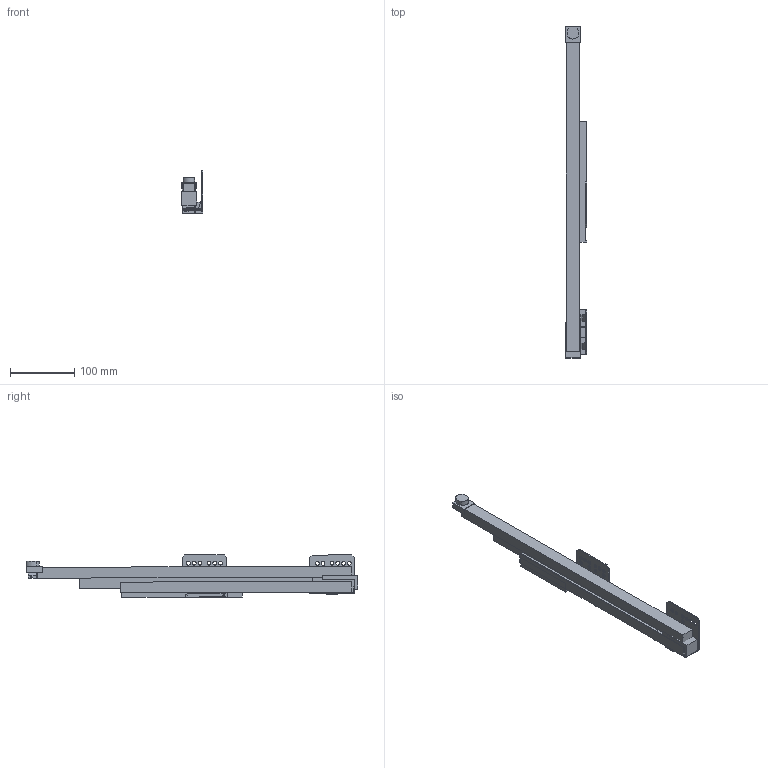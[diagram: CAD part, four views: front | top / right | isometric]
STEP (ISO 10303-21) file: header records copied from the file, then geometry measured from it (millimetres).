
FILE_DESCRIPTION (( 'STEP AP214' ), '1' );
FILE_NAME ('_IMOS Dynamic-XP VA 40kg NL500 RE Tipmatic.step', '2010-07-08T13:26:40', ( 'grass' ), ( '' ), 'SwSTEP 2.0', 'SolidWorks 2010', '' );
FILE_SCHEMA (( 'AUTOMOTIVE_DESIGN' ));
Length unit declared in the file: millimetre
Products named in the file (1): _IMOS Dynamic-XP VA 40kg NL500 RE Tipmatic
Bounding box: 33.14 x 518.02 x 66.67 mm (x, y, z)
Volume: 421580.4 mm3; surface area: 151529.8 mm2
Topology: 8 solids, 8 shells, 184 faces, 496 edges, 330 vertices
Faces by surface type: plane 137, cylinder 47
Entity records: 5917 total; most frequent: CARTESIAN_POINT 1011, ORIENTED_EDGE 992, DIRECTION 962, EDGE_CURVE 496, LINE 400, VECTOR 400, VERTEX_POINT 330, AXIS2_PLACEMENT_3D 281
